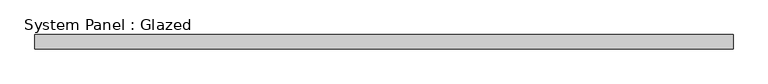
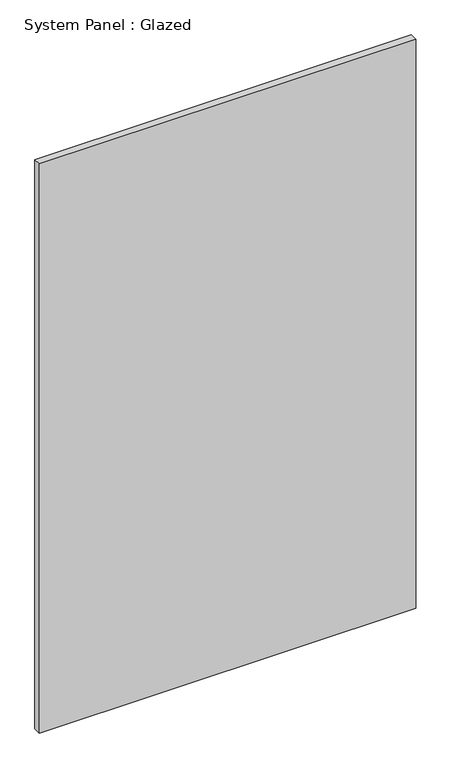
"""IFC4 building model written with IfcOpenShell, lengths in millimetres: plate geometry, System Panel : Glazed."""

from ifc_helpers import new_model, si_unit, origin, origin_with_axes, place, context, project, spatial, polyline, outline, extrude, source, transform, mapped, element, save


def system_panel_glazed_5cc509e3(model_context):
    return source(origin(), model_context, "Body", "SweptSolid", [
        extrude(outline(polyline([(624.6304833, 19.05), (-624.6304833, 19.05), (-624.6304833, 44.45), (624.6304833, 44.45), (624.6304833, 19.05)])), origin_with_axes(), (0.0, 0.0, 1.0), 1996.44),
    ])


if __name__ == "__main__":
    model = new_model("IFC4")
    model_context = context("Model", 3, world=origin())
    ifc_project = project(units=[si_unit("LENGTHUNIT", "METRE", prefix="MILLI")], contexts=[model_context])
    site = spatial("IfcSite", under=ifc_project)
    building = spatial("IfcBuilding", under=site)
    placement = place(None, origin())
    system_panel_glazed_shape = system_panel_glazed_5cc509e3(model_context)
    element("IfcPlate", 1, ObjectType="System Panel : Glazed", at=placement, inside=building, context=model_context, shape_type="MappedRepresentation", body=[
        mapped(system_panel_glazed_shape, transform((0.0, 0.0, 0.0), x_axis=(1.0, 0.0, 0.0), y_axis=(0.0, 1.0, 0.0), z_axis=(0.0, 0.0, 1.0))),
    ])
    save(model, "model.ifc")
